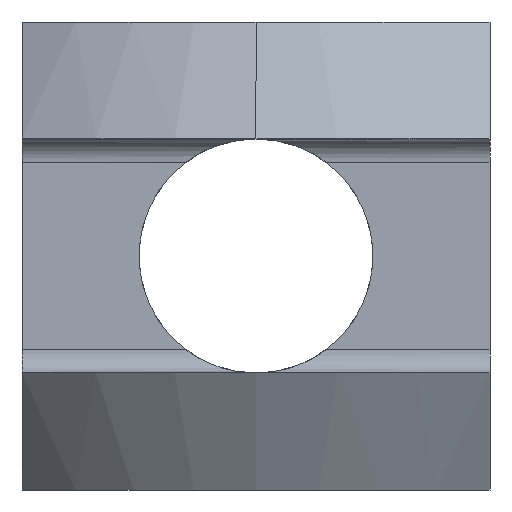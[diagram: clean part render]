
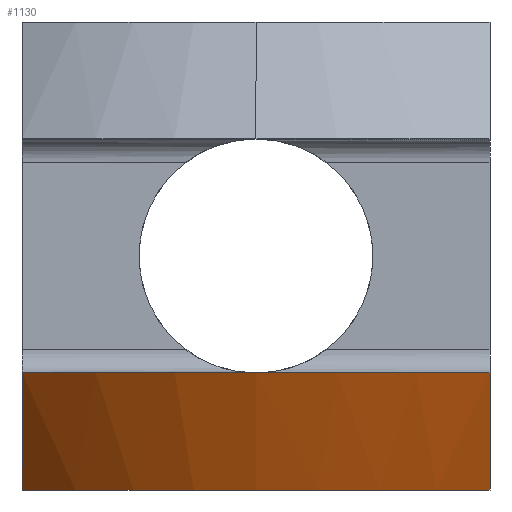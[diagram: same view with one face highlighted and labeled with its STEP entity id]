
A CAD part, left-side view. The second image highlights one B-rep face of the part: STEP entity #1130.
In plain terms, the highlighted conical face has half-angle 30 degrees and reference radius 20 mm.
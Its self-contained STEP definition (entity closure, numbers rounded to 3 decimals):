
#59 = ORIENTED_EDGE ( 'NONE', *, *, #80, .F. ) ;
#72 = EDGE_CURVE ( 'NONE', #114, #183, #288, .T. ) ;
#79 = VERTEX_POINT ( 'NONE', #326 ) ;
#80 = EDGE_CURVE ( 'NONE', #182, #79, #320, .T. ) ;
#114 = VERTEX_POINT ( 'NONE', #421 ) ;
#117 = EDGE_CURVE ( 'NONE', #114, #79, #420, .T. ) ;
#164 = EDGE_CURVE ( 'NONE', #183, #182, #490, .T. ) ;
#182 = VERTEX_POINT ( 'NONE', #520 ) ;
#183 = VERTEX_POINT ( 'NONE', #519 ) ;
#283 = CARTESIAN_POINT ( 'NONE',  ( -49.321, 10., -5. ) ) ;
#284 = CARTESIAN_POINT ( 'NONE',  ( -48.199, 10., -6.682 ) ) ;
#285 = CARTESIAN_POINT ( 'NONE',  ( -47.06, 10., -8.352 ) ) ;
#286 = CARTESIAN_POINT ( 'NONE',  ( -45.888, 10., -10. ) ) ;
#288 = B_SPLINE_CURVE_WITH_KNOTS ( 'NONE', 3,
 ( #286, #285, #284, #283 ),
 .UNSPECIFIED., .F., .F.,
 ( 4, 4 ),
 ( 0.036, 0.042 ),
 .UNSPECIFIED. ) ;
#315 = CARTESIAN_POINT ( 'NONE',  ( -45.888, -10., -10. ) ) ;
#316 = CARTESIAN_POINT ( 'NONE',  ( -47.06, -10., -8.352 ) ) ;
#317 = CARTESIAN_POINT ( 'NONE',  ( -48.199, -10., -6.682 ) ) ;
#318 = CARTESIAN_POINT ( 'NONE',  ( -49.321, -10., -5. ) ) ;
#320 = B_SPLINE_CURVE_WITH_KNOTS ( 'NONE', 3,
 ( #318, #317, #316, #315 ),
 .UNSPECIFIED., .F., .F.,
 ( 4, 4 ),
 ( 0.015, 0.021 ),
 .UNSPECIFIED. ) ;
#326 = CARTESIAN_POINT ( 'NONE',  ( -45.888, -10., -10. ) ) ;
#416 = DIRECTION ( 'NONE',  ( 1., 0., 0. ) ) ;
#417 = DIRECTION ( 'NONE',  ( 0., 0., 1. ) ) ;
#418 = CARTESIAN_POINT ( 'NONE',  ( -32., 0., -10. ) ) ;
#419 = AXIS2_PLACEMENT_3D ( 'NONE', #418, #417, #416 ) ;
#420 = CIRCLE ( 'NONE', #419, 17.113 ) ;
#421 = CARTESIAN_POINT ( 'NONE',  ( -45.888, 10., -10. ) ) ;
#486 = DIRECTION ( 'NONE',  ( 1., 0., 0. ) ) ;
#487 = DIRECTION ( 'NONE',  ( 0., 0., 1. ) ) ;
#488 = CARTESIAN_POINT ( 'NONE',  ( -32., 0., -5. ) ) ;
#489 = AXIS2_PLACEMENT_3D ( 'NONE', #488, #487, #486 ) ;
#490 = CIRCLE ( 'NONE', #489, 20. ) ;
#519 = CARTESIAN_POINT ( 'NONE',  ( -49.321, 10., -5. ) ) ;
#520 = CARTESIAN_POINT ( 'NONE',  ( -49.321, -10., -5. ) ) ;
#613 = DIRECTION ( 'NONE',  ( 1., 0., 0. ) ) ;
#614 = DIRECTION ( 'NONE',  ( 0., 0., 1. ) ) ;
#615 = AXIS2_PLACEMENT_3D ( 'NONE', #617, #614, #613 ) ;
#617 = CARTESIAN_POINT ( 'NONE',  ( -32., 0., -5. ) ) ;
#618 = CONICAL_SURFACE ( 'NONE', #615, 20., 0.524 ) ;
#622 = FACE_OUTER_BOUND ( 'NONE', #1123, .T. ) ;
#1089 = ORIENTED_EDGE ( 'NONE', *, *, #117, .T. ) ;
#1123 = EDGE_LOOP ( 'NONE', ( #1124, #1125, #1089, #59 ) ) ;
#1124 = ORIENTED_EDGE ( 'NONE', *, *, #164, .F. ) ;
#1125 = ORIENTED_EDGE ( 'NONE', *, *, #72, .F. ) ;
#1130 = ADVANCED_FACE ( 'NONE', ( #622 ), #618, .T. ) ;
